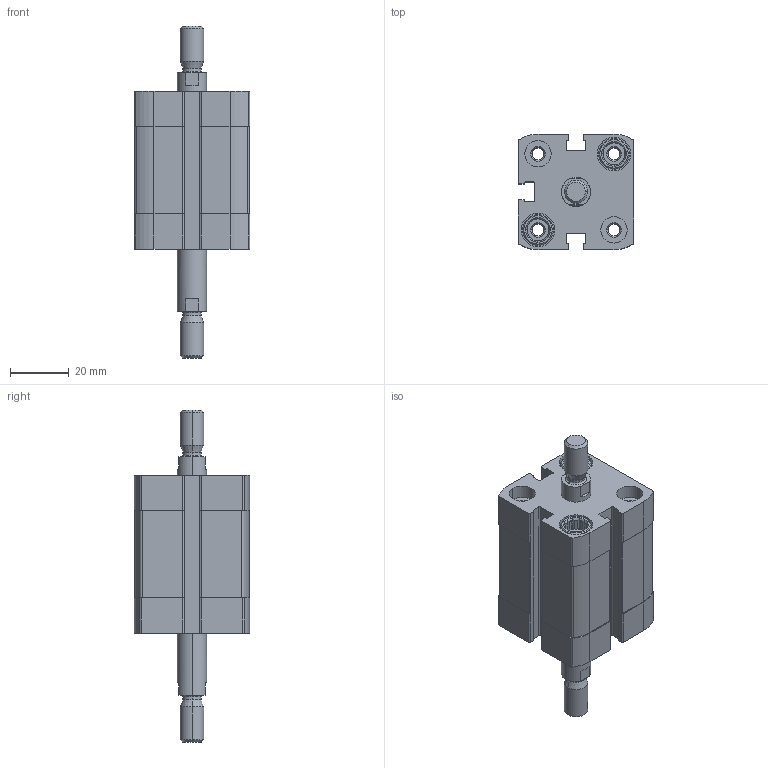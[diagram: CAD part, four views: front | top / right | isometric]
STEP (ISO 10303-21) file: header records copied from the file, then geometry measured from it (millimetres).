
FILE_DESCRIPTION (( 'STEP AP203' ), '1' );
FILE_NAME ('CCN25-15-P.STEP', '2020-06-22T18:42:34', ( '' ), ( '' ), 'SwSTEP 2.0', 'SolidWorks 2019', '' );
FILE_SCHEMA (( 'CONFIG_CONTROL_DESIGN' ));
Length unit declared in the file: millimetre
Products named in the file (1): CCN25-15-P
Bounding box: 39.5 x 39.5 x 113.5 mm (x, y, z)
Volume: 68171.8 mm3; surface area: 26608.5 mm2
Topology: 2 solids, 2 shells, 428 faces, 1122 edges, 730 vertices
Faces by surface type: plane 236, cylinder 140, cone 44, torus 8
Entity records: 13443 total; most frequent: CARTESIAN_POINT 2581, DIRECTION 2318, ORIENTED_EDGE 2244, EDGE_CURVE 1122, AXIS2_PLACEMENT_3D 867, VERTEX_POINT 730, LINE 584, VECTOR 584
